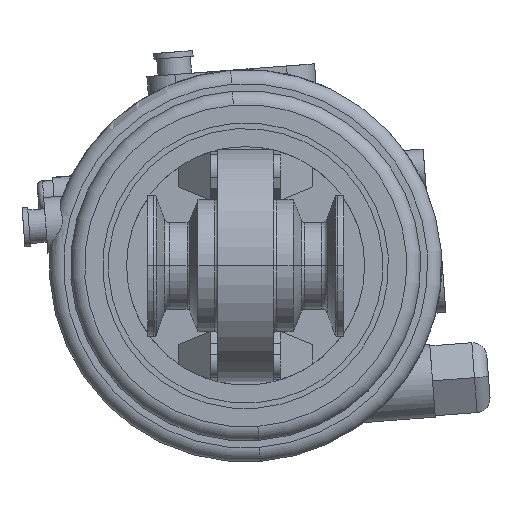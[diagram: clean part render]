
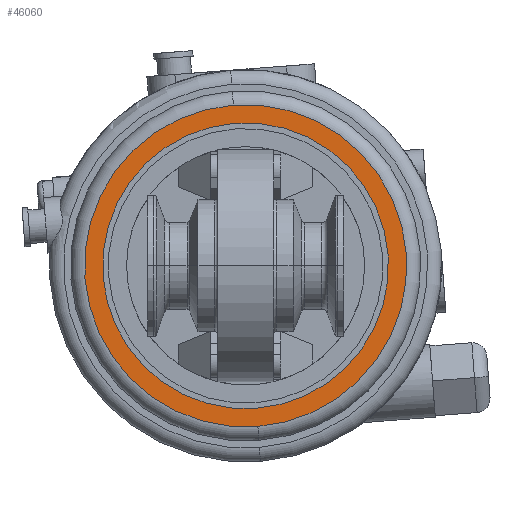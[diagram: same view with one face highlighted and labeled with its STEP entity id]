
A CAD part, front view. The second image highlights one B-rep face of the part: STEP entity #46060.
In plain terms, the highlighted planar face has unit normal (0, -1, 0).
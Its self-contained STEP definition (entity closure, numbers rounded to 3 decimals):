
#44640=CARTESIAN_POINT('',(-51.,6.224,0.));
#44650=VERTEX_POINT('',#44640);
#44810=CARTESIAN_POINT('',(51.,6.224,0.));
#44820=VERTEX_POINT('',#44810);
#44850=CARTESIAN_POINT('',(0.,6.224,0.));
#44860=DIRECTION('',(0.,1.,0.));
#44870=DIRECTION('',(-1.,0.,0.));
#44880=AXIS2_PLACEMENT_3D('',#44850,#44860,#44870);
#44890=CIRCLE('',#44880,51.);
#44900=EDGE_CURVE('',#44820,#44650,#44890,.T.);
#45070=CARTESIAN_POINT('',(57.5,6.224,0.));
#45080=VERTEX_POINT('',#45070);
#45290=CARTESIAN_POINT('',(-57.5,6.224,0.));
#45300=VERTEX_POINT('',#45290);
#45330=CARTESIAN_POINT('',(0.,6.224,0.));
#45340=DIRECTION('',(0.,1.,0.));
#45350=DIRECTION('',(0.,0.,1.));
#45360=AXIS2_PLACEMENT_3D('',#45330,#45340,#45350);
#45370=CIRCLE('',#45360,57.5);
#45380=EDGE_CURVE('',#45080,#45300,#45370,.T.);
#45910=CARTESIAN_POINT('',(0.,6.224,0.));
#45920=DIRECTION('',(0.,1.,0.));
#45930=DIRECTION('',(0.,0.,1.));
#45940=AXIS2_PLACEMENT_3D('',#45910,#45920,#45930);
#45950=PLANE('',#45940);
#45960=EDGE_CURVE('',#44650,#44820,#44890,.T.);
#45970=ORIENTED_EDGE('',*,*,#45960,.T.);
#45980=ORIENTED_EDGE('',*,*,#44900,.T.);
#45990=EDGE_LOOP('',(#45980,#45970));
#46000=FACE_BOUND('',#45990,.T.);
#46010=EDGE_CURVE('',#45300,#45080,#45370,.T.);
#46020=ORIENTED_EDGE('',*,*,#46010,.F.);
#46030=ORIENTED_EDGE('',*,*,#45380,.F.);
#46040=EDGE_LOOP('',(#46030,#46020));
#46050=FACE_OUTER_BOUND('',#46040,.T.);
#46060=ADVANCED_FACE('',(#46000,#46050),#45950,.F.);
